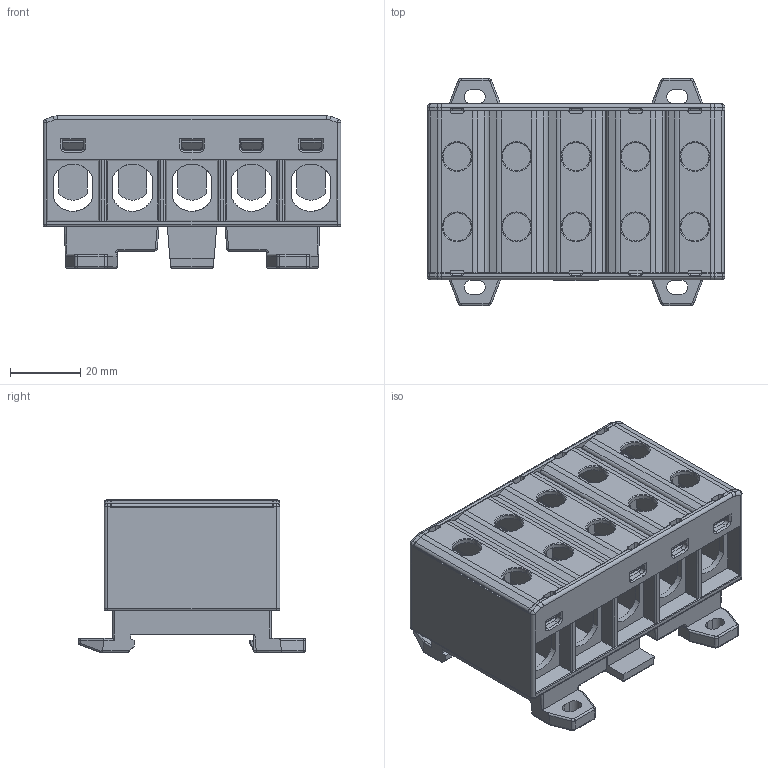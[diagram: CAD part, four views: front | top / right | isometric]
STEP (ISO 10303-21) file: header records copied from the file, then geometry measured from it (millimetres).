
FILE_DESCRIPTION((''),'2;1');
FILE_NAME('YITAO_ASM','2018-05-23T',('Administrator'),(''),'PRO/ENGINEER BY PARAMETRIC TECHNOLOGY CORPORATION, 2015240','PRO/ENGINEER BY PARAMETRIC TECHNOLOGY CORPORATION, 2015240','');
FILE_SCHEMA(('CONFIG_CONTROL_DESIGN'));
Length unit declared in the file: millimetre
Products named in the file (4): DI; DAGAI; GAI2; YITAO_ASM
Assembly tree (4 placements, depth 2):
  YITAO_ASM
    DI
    DAGAI
    GAI2  x2
Bounding box: 84.58 x 64.5 x 43.4 mm (x, y, z)
Volume: 42769.2 mm3; surface area: 55725.6 mm2
Topology: 4 solids, 4 shells, 1003 faces, 2717 edges, 1724 vertices
Faces by surface type: plane 602, cylinder 288, bspline 37, torus 36, sphere 24, cone 16
Entity records: 29363 total; most frequent: CARTESIAN_POINT 6640, ORIENTED_EDGE 4890, DIRECTION 4475, EDGE_CURVE 2445, VECTOR 1731, LINE 1731, VERTEX_POINT 1546, AXIS2_PLACEMENT_3D 1372
